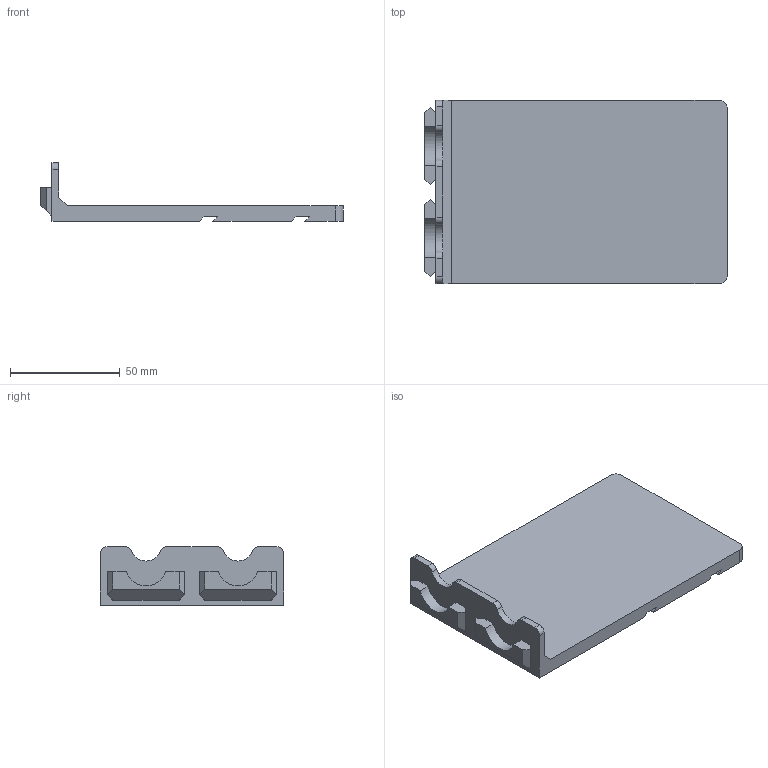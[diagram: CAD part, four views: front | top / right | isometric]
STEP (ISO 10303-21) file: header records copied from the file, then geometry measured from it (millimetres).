
FILE_DESCRIPTION(/* description */ ('','CAx-IF Rec.Pracs.---Representation and Presentation of Product Manufacturing Information (PMI)---4.0---2014-10-13'),/* implementation_level */ '2;1');
FILE_NAME(/* name */ 'Goews 2x HangerFlat Shelf 2x3 Base.step',/* time_stamp */ '2024-11-29T16:34:06-05:00',/* author */ (''),/* organization */ (''),/* preprocessor_version */ 'ST-DEVELOPER v20',/* originating_system */ 'Autodesk Translation Framework v13.20.0.188',/* authorisation */ '');
FILE_SCHEMA (('AP242_MANAGED_MODEL_BASED_3D_ENGINEERING_MIM_LF { 1 0 10303 442 1 1 4 }'));
Length unit declared in the file: millimetre
Products named in the file (1): Goews 2x Hanger Shelf 2x
Bounding box: 138.15 x 83.6 x 26.72 mm (x, y, z)
Volume: 83641.2 mm3; surface area: 29972.3 mm2
Topology: 1 solids, 1 shells, 53 faces, 143 edges, 94 vertices
Faces by surface type: plane 41, cylinder 12
Entity records: 1682 total; most frequent: CARTESIAN_POINT 291, ORIENTED_EDGE 286, DIRECTION 275, EDGE_CURVE 143, LINE 119, VECTOR 119, VERTEX_POINT 94, AXIS2_PLACEMENT_3D 78
